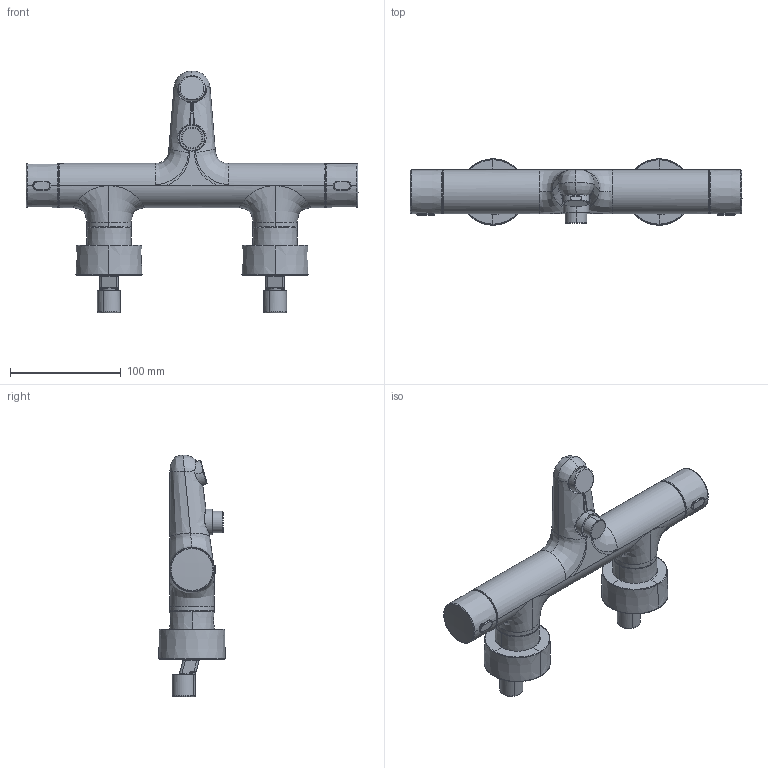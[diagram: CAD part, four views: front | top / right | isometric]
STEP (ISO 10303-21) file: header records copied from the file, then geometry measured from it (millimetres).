
FILE_DESCRIPTION (( 'STEP AP203' ), '1' );
FILE_NAME ('58102301(2024).STEP', '2024-01-11T10:37:27', ( '' ), ( '' ), 'SwSTEP 2.0', 'SolidWorks 2016', '' );
FILE_SCHEMA (( 'CONFIG_CONTROL_DESIGN' ));
Length unit declared in the file: millimetre
Products named in the file (1): 58102301(2024)
Bounding box: 299.88 x 59.98 x 218.56 mm (x, y, z)
Volume: 644658.8 mm3; surface area: 96749.3 mm2
Topology: 1 solids, 1 shells, 345 faces, 875 edges, 536 vertices
Faces by surface type: bspline 150, cylinder 80, plane 59, cone 26, torus 22, sphere 8
Entity records: 24155 total; most frequent: CARTESIAN_POINT 16997, ORIENTED_EDGE 1726, DIRECTION 1141, EDGE_CURVE 863, VERTEX_POINT 536, AXIS2_PLACEMENT_3D 488, EDGE_LOOP 361, B_SPLINE_CURVE_WITH_KNOTS 346
